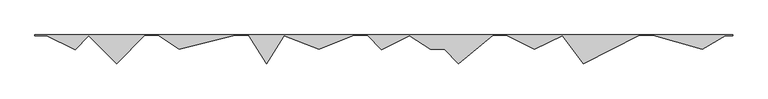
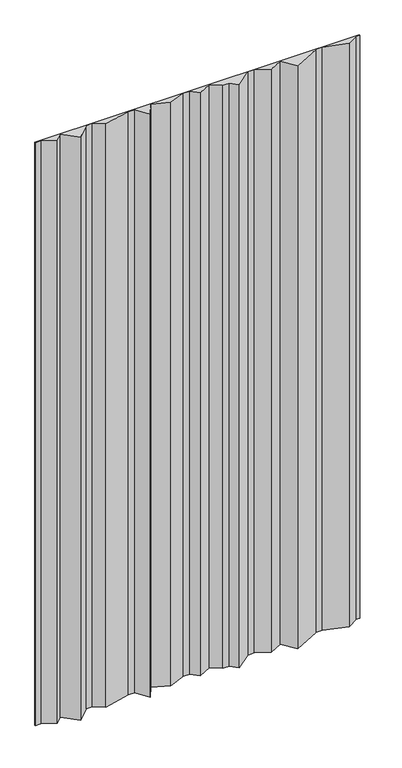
"""IFC4 building model written with IfcOpenShell, lengths in millimetres: plate geometry, ATELIERS 3S_GLACE PISSAILLAS 1000_VERTICAL : AZURO."""

from ifc_helpers import new_model, si_unit, origin, origin_with_axes, place, context, project, spatial, polyline, outline, extrude, source, transform, mapped, element, save


def plate_a25a821f(model_context):
    return source(origin(), model_context, "Body", "SweptSolid", [
        extrude(outline(polyline([(-482.9527884, -0.864757), (-500.0000002, -0.864757), (-500.0000002, 0.0), (499.9999998, 0.0), (499.9999998, -1.0), (489.7755034, -1.0), (456.4025168, -20.8096981), (385.886243, -0.75), (366.1678949, -0.75), (285.7664033, -40.9507458), (255.7664033, -0.9507458), (215.9908439, -20.8385255), (175.813793, -0.75), (156.2580963, -0.75), (106.9399197, -41.009736), (86.6801838, -20.75), (66.7637622, -20.75), (36.9369619, -0.8654665), (-3.1572458, -20.9125704), (-23.3198162, -0.75), (-42.8647193, -0.75), (-93.0091561, -20.8077747), (-142.7054948, -0.9292392), (-168.0091561, -41.4150972), (-193.4248418, -0.75), (-212.9168268, -0.75), (-293.1491257, -20.8080747), (-323.2362378, -0.75), (-342.6984959, -0.75), (-383.0091561, -41.0606602), (-423.0037163, -1.0660999), (-442.4501561, -20.9135393), (-482.9527884, -0.864757)])), origin_with_axes(), (0.0, 0.0, 1.0), 1900.0),
    ])


if __name__ == "__main__":
    model = new_model("IFC4")
    model_context = context("Model", 3, world=origin())
    ifc_project = project(units=[si_unit("LENGTHUNIT", "METRE", prefix="MILLI")], contexts=[model_context])
    site = spatial("IfcSite", under=ifc_project)
    building = spatial("IfcBuilding", under=site)
    placement = place(None, origin())
    plate_shape = plate_a25a821f(model_context)
    element("IfcPlate", 1, ObjectType="ATELIERS 3S_GLACE PISSAILLAS 1000_VERTICAL : AZURO", at=placement, inside=building, context=model_context, shape_type="MappedRepresentation", body=[
        mapped(plate_shape, transform((0.0, 0.0, 0.0), x_axis=(1.0, 0.0, 0.0), y_axis=(0.0, 1.0, 0.0), z_axis=(0.0, 0.0, 1.0))),
    ])
    save(model, "model.ifc")
